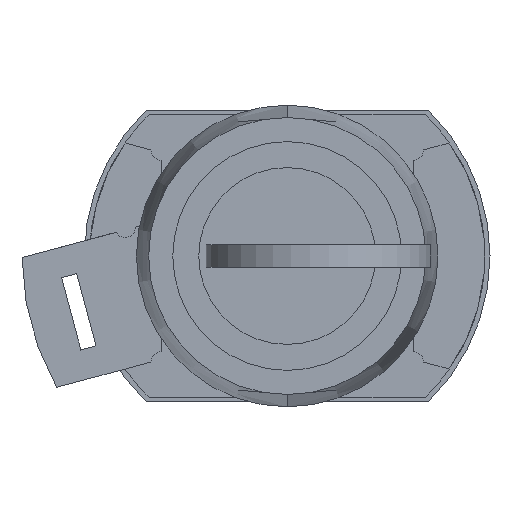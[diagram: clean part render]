
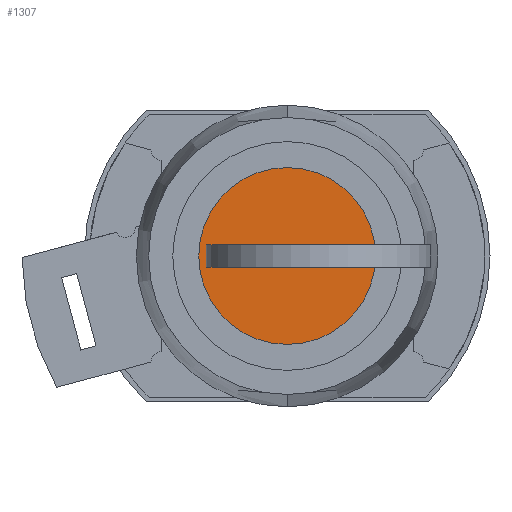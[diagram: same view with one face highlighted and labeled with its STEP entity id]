
A CAD part, left-side view. The second image highlights one B-rep face of the part: STEP entity #1307.
In plain terms, the highlighted planar face has unit normal (-1, 0, 0).
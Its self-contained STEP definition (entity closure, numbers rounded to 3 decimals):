
#791 = EDGE_CURVE ( 'NONE', #1612, #12815, #3443, .T. ) ;
#1307 = ADVANCED_FACE ( 'NONE', ( #4659, #4660 ), #4661, .T. ) ;
#1379 = EDGE_LOOP ( 'NONE', ( #1516, #1658, #2173, #2709 ) ) ;
#1516 = ORIENTED_EDGE ( 'NONE', *, *, #12972, .T. ) ;
#1612 = VERTEX_POINT ( 'NONE', #5389 ) ;
#1658 = ORIENTED_EDGE ( 'NONE', *, *, #13059, .T. ) ;
#2173 = ORIENTED_EDGE ( 'NONE', *, *, #791, .T. ) ;
#2709 = ORIENTED_EDGE ( 'NONE', *, *, #7343, .T. ) ;
#3038 = VERTEX_POINT ( 'NONE', #6086 ) ;
#3264 = VERTEX_POINT ( 'NONE', #6198 ) ;
#3443 = LINE ( 'NONE', #3444, #3445 ) ;
#3444 = CARTESIAN_POINT ( 'NONE',  ( -15., 4.25, -1.1 ) ) ;
#3445 = VECTOR ( 'NONE', #3454, 1000. ) ;
#3454 = DIRECTION ( 'NONE',  ( 0., 1., 0. ) ) ;
#4659 = FACE_BOUND ( 'NONE', #1379, .T. ) ;
#4660 = FACE_OUTER_BOUND ( 'NONE', #7819, .T. ) ;
#4661 = PLANE ( 'NONE',  #4662 ) ;
#4662 = AXIS2_PLACEMENT_3D ( 'NONE', #4663, #4664, #4665 ) ;
#4663 = CARTESIAN_POINT ( 'NONE',  ( -15., 4.25, 0. ) ) ;
#4664 = DIRECTION ( 'NONE',  ( -1., 0., 0. ) ) ;
#4665 = DIRECTION ( 'NONE',  ( 0., 0., 1. ) ) ;
#5389 = CARTESIAN_POINT ( 'NONE',  ( -15., -7., -1.1 ) ) ;
#6086 = CARTESIAN_POINT ( 'NONE',  ( -15., 0., -8.5 ) ) ;
#6198 = CARTESIAN_POINT ( 'NONE',  ( -15., 0., 8.5 ) ) ;
#6488 = VERTEX_POINT ( 'NONE', #8291 ) ;
#6921 = LINE ( 'NONE', #6922, #6923 ) ;
#6922 = CARTESIAN_POINT ( 'NONE',  ( -15., 4.25, 1.1 ) ) ;
#6923 = VECTOR ( 'NONE', #6924, 1000. ) ;
#6924 = DIRECTION ( 'NONE',  ( 0., -1., 0. ) ) ;
#7240 = LINE ( 'NONE', #7241, #7242 ) ;
#7241 = CARTESIAN_POINT ( 'NONE',  ( -15., -7., 0. ) ) ;
#7242 = VECTOR ( 'NONE', #7243, 1000. ) ;
#7243 = DIRECTION ( 'NONE',  ( 0., 0., -1. ) ) ;
#7343 = EDGE_CURVE ( 'NONE', #12815, #6488, #8744, .T. ) ;
#7819 = EDGE_LOOP ( 'NONE', ( #8279, #8808 ) ) ;
#8279 = ORIENTED_EDGE ( 'NONE', *, *, #12453, .F. ) ;
#8291 = CARTESIAN_POINT ( 'NONE',  ( -15., 2., 1.1 ) ) ;
#8744 = LINE ( 'NONE', #8745, #8746 ) ;
#8745 = CARTESIAN_POINT ( 'NONE',  ( -15., 2., 0. ) ) ;
#8746 = VECTOR ( 'NONE', #8747, 1000. ) ;
#8747 = DIRECTION ( 'NONE',  ( 0., 0., 1. ) ) ;
#8808 = ORIENTED_EDGE ( 'NONE', *, *, #9160, .F. ) ;
#9160 = EDGE_CURVE ( 'NONE', #3264, #3038, #9510, .T. ) ;
#9510 = CIRCLE ( 'NONE', #9511, 8.5 ) ;
#9511 = AXIS2_PLACEMENT_3D ( 'NONE', #9512, #9518, #9519 ) ;
#9512 = CARTESIAN_POINT ( 'NONE',  ( -15., 0., 0. ) ) ;
#9518 = DIRECTION ( 'NONE',  ( 1., 0., 0. ) ) ;
#9519 = DIRECTION ( 'NONE',  ( 0., 0., -1. ) ) ;
#11107 = CIRCLE ( 'NONE', #11108, 8.5 ) ;
#11108 = AXIS2_PLACEMENT_3D ( 'NONE', #11109, #11110, #11111 ) ;
#11109 = CARTESIAN_POINT ( 'NONE',  ( -15., 0., 0. ) ) ;
#11110 = DIRECTION ( 'NONE',  ( 1., 0., 0. ) ) ;
#11111 = DIRECTION ( 'NONE',  ( 0., 0., -1. ) ) ;
#11701 = CARTESIAN_POINT ( 'NONE',  ( -15., -7., 1.1 ) ) ;
#11855 = CARTESIAN_POINT ( 'NONE',  ( -15., 2., -1.1 ) ) ;
#12453 = EDGE_CURVE ( 'NONE', #3038, #3264, #11107, .T. ) ;
#12749 = VERTEX_POINT ( 'NONE', #11701 ) ;
#12815 = VERTEX_POINT ( 'NONE', #11855 ) ;
#12972 = EDGE_CURVE ( 'NONE', #6488, #12749, #6921, .T. ) ;
#13059 = EDGE_CURVE ( 'NONE', #12749, #1612, #7240, .T. ) ;
